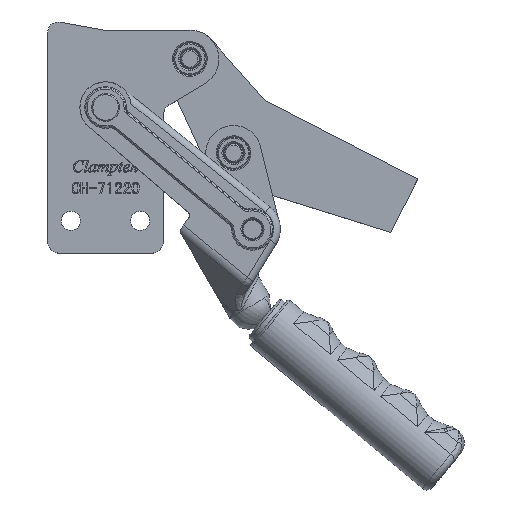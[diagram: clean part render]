
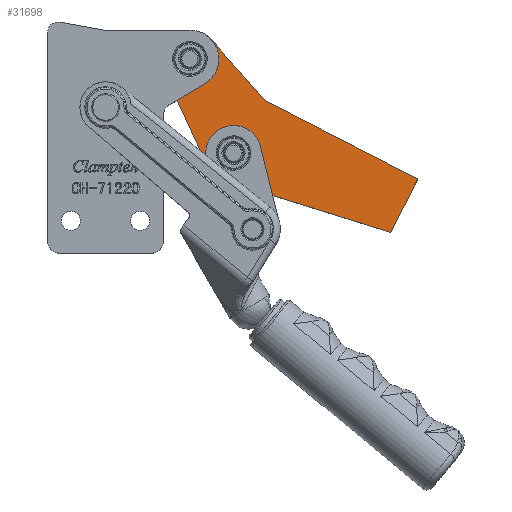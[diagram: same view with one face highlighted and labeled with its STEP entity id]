
A CAD part, top view. The second image highlights one B-rep face of the part: STEP entity #31698.
In plain terms, the highlighted planar face has unit normal (0, 0, 1).
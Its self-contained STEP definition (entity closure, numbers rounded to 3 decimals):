
#923=FACE_BOUND('',#4821,.T.);
#924=FACE_BOUND('',#4822,.T.);
#1303=PLANE('',#33909);
#3098=FACE_OUTER_BOUND('',#4820,.T.);
#4820=EDGE_LOOP('',(#25617,#25618,#25619,#25620,#25621,#25622,#25623,#25624));
#4821=EDGE_LOOP('',(#25625,#25626));
#4822=EDGE_LOOP('',(#25627,#25628));
#7111=LINE('',#58147,#10032);
#7112=LINE('',#58151,#10033);
#7113=LINE('',#58155,#10034);
#7114=LINE('',#58157,#10035);
#7115=LINE('',#58158,#10036);
#10032=VECTOR('',#39351,1000.);
#10033=VECTOR('',#39354,1000.);
#10034=VECTOR('',#39357,1000.);
#10035=VECTOR('',#39358,1000.);
#10036=VECTOR('',#39359,1000.);
#12079=CIRCLE('',#33890,5.);
#12080=CIRCLE('',#33891,5.);
#12083=CIRCLE('',#33895,5.);
#12084=CIRCLE('',#33896,5.);
#12093=CIRCLE('',#33910,5.);
#12094=CIRCLE('',#33911,12.5);
#12095=CIRCLE('',#33912,12.5);
#14537=VERTEX_POINT('',#58103);
#14538=VERTEX_POINT('',#58105);
#14541=VERTEX_POINT('',#58113);
#14542=VERTEX_POINT('',#58115);
#14551=VERTEX_POINT('',#58143);
#14552=VERTEX_POINT('',#58144);
#14553=VERTEX_POINT('',#58146);
#14554=VERTEX_POINT('',#58148);
#14555=VERTEX_POINT('',#58150);
#14556=VERTEX_POINT('',#58152);
#14557=VERTEX_POINT('',#58154);
#14558=VERTEX_POINT('',#58156);
#18510=EDGE_CURVE('',#14538,#14537,#12079,.T.);
#18511=EDGE_CURVE('',#14537,#14538,#12080,.T.);
#18515=EDGE_CURVE('',#14542,#14541,#12083,.T.);
#18516=EDGE_CURVE('',#14541,#14542,#12084,.T.);
#18529=EDGE_CURVE('',#14551,#14552,#12093,.T.);
#18530=EDGE_CURVE('',#14552,#14553,#7111,.T.);
#18531=EDGE_CURVE('',#14553,#14554,#12094,.T.);
#18532=EDGE_CURVE('',#14554,#14555,#7112,.T.);
#18533=EDGE_CURVE('',#14555,#14556,#12095,.T.);
#18534=EDGE_CURVE('',#14556,#14557,#7113,.T.);
#18535=EDGE_CURVE('',#14557,#14558,#7114,.T.);
#18536=EDGE_CURVE('',#14558,#14551,#7115,.T.);
#25617=ORIENTED_EDGE('',*,*,#18529,.T.);
#25618=ORIENTED_EDGE('',*,*,#18530,.T.);
#25619=ORIENTED_EDGE('',*,*,#18531,.T.);
#25620=ORIENTED_EDGE('',*,*,#18532,.T.);
#25621=ORIENTED_EDGE('',*,*,#18533,.T.);
#25622=ORIENTED_EDGE('',*,*,#18534,.T.);
#25623=ORIENTED_EDGE('',*,*,#18535,.T.);
#25624=ORIENTED_EDGE('',*,*,#18536,.T.);
#25625=ORIENTED_EDGE('',*,*,#18515,.T.);
#25626=ORIENTED_EDGE('',*,*,#18516,.T.);
#25627=ORIENTED_EDGE('',*,*,#18510,.T.);
#25628=ORIENTED_EDGE('',*,*,#18511,.T.);
#31698=ADVANCED_FACE('',(#3098,#923,#924),#1303,.F.);
#33890=AXIS2_PLACEMENT_3D('',#58106,#39304,#39305);
#33891=AXIS2_PLACEMENT_3D('',#58107,#39306,#39307);
#33895=AXIS2_PLACEMENT_3D('',#58116,#39315,#39316);
#33896=AXIS2_PLACEMENT_3D('',#58117,#39317,#39318);
#33909=AXIS2_PLACEMENT_3D('',#58142,#39347,#39348);
#33910=AXIS2_PLACEMENT_3D('',#58145,#39349,#39350);
#33911=AXIS2_PLACEMENT_3D('',#58149,#39352,#39353);
#33912=AXIS2_PLACEMENT_3D('',#58153,#39355,#39356);
#39304=DIRECTION('center_axis',(0.,0.,-1.));
#39305=DIRECTION('ref_axis',(-1.,0.,0.));
#39306=DIRECTION('center_axis',(0.,0.,-1.));
#39307=DIRECTION('ref_axis',(-1.,0.,0.));
#39315=DIRECTION('center_axis',(0.,0.,-1.));
#39316=DIRECTION('ref_axis',(-1.,0.,0.));
#39317=DIRECTION('center_axis',(0.,0.,-1.));
#39318=DIRECTION('ref_axis',(-1.,0.,0.));
#39347=DIRECTION('center_axis',(0.,0.,-1.));
#39348=DIRECTION('ref_axis',(-1.,0.,0.));
#39349=DIRECTION('center_axis',(0.,0.,-1.));
#39350=DIRECTION('ref_axis',(-1.,0.,0.));
#39351=DIRECTION('',(0.931,-0.364,0.));
#39352=DIRECTION('center_axis',(0.,0.,1.));
#39353=DIRECTION('ref_axis',(1.,0.,0.));
#39354=DIRECTION('',(-0.788,0.615,0.));
#39355=DIRECTION('center_axis',(0.,0.,1.));
#39356=DIRECTION('ref_axis',(1.,0.,0.));
#39357=DIRECTION('',(-0.985,-0.172,0.));
#39358=DIRECTION('',(0.,-1.,0.));
#39359=DIRECTION('',(1.,0.,0.));
#58103=CARTESIAN_POINT('',(-5.,0.,12.));
#58105=CARTESIAN_POINT('',(5.,0.,12.));
#58106=CARTESIAN_POINT('Origin',(0.,0.,12.));
#58107=CARTESIAN_POINT('Origin',(0.,0.,12.));
#58113=CARTESIAN_POINT('',(-40.4,27.62,12.));
#58115=CARTESIAN_POINT('',(-30.4,27.62,12.));
#58116=CARTESIAN_POINT('Origin',(-35.4,27.62,12.));
#58117=CARTESIAN_POINT('Origin',(-35.4,27.62,12.));
#58142=CARTESIAN_POINT('Origin',(-37.885,-3.973,12.));
#58143=CARTESIAN_POINT('',(-37.885,1.027,12.));
#58144=CARTESIAN_POINT('',(-36.064,0.684,12.));
#58145=CARTESIAN_POINT('Origin',(-37.885,-3.973,12.));
#58146=CARTESIAN_POINT('',(-4.553,-11.641,12.));
#58147=CARTESIAN_POINT('',(-4.553,-11.641,12.));
#58148=CARTESIAN_POINT('',(7.689,9.855,12.));
#58149=CARTESIAN_POINT('Origin',(0.,0.,12.));
#58150=CARTESIAN_POINT('',(-27.711,37.475,12.));
#58151=CARTESIAN_POINT('',(-27.711,37.475,12.));
#58152=CARTESIAN_POINT('',(-37.549,39.934,12.));
#58153=CARTESIAN_POINT('Origin',(-35.4,27.62,12.));
#58154=CARTESIAN_POINT('',(-111.5,27.027,12.));
#58155=CARTESIAN_POINT('',(-111.5,27.027,12.));
#58156=CARTESIAN_POINT('',(-111.5,1.027,12.));
#58157=CARTESIAN_POINT('',(-111.5,1.027,12.));
#58158=CARTESIAN_POINT('',(-111.5,1.027,12.));
